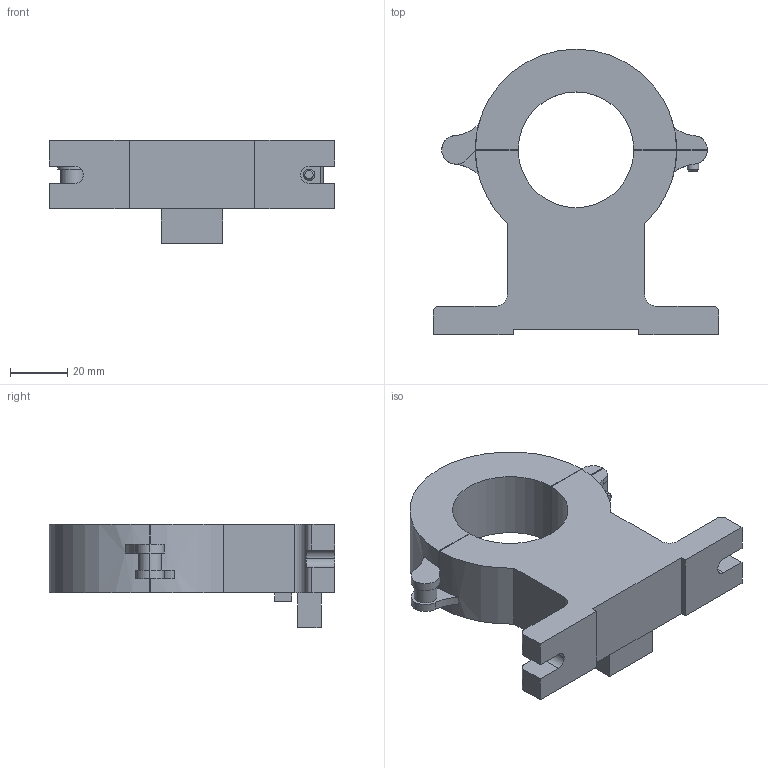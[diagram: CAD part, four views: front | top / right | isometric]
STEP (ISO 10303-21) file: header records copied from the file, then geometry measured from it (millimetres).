
FILE_DESCRIPTION(('FreeCAD Model'),'2;1');
FILE_NAME('Open CASCADE Shape Model','2022-01-02T10:00:50',('Author'),( ''),'Open CASCADE STEP processor 7.5','FreeCAD','Unknown');
FILE_SCHEMA(('AUTOMOTIVE_DESIGN { 1 0 10303 214 1 1 1 1 }'));
Length unit declared in the file: millimetre
Products named in the file (1): SHo40
Bounding box: 100 x 100 x 36.1 mm (x, y, z)
Volume: 112252 mm3; surface area: 26472 mm2
Topology: 1 solids, 1 shells, 143 faces, 400 edges, 266 vertices
Faces by surface type: plane 96, cylinder 43, cone 4
Entity records: 11108 total; most frequent: CARTESIAN_POINT 2076, DIRECTION 1531, LINE 964, VECTOR 964, ORIENTED_EDGE 800, PCURVE 800, DEFINITIONAL_REPRESENTATION 800, EDGE_CURVE 400
